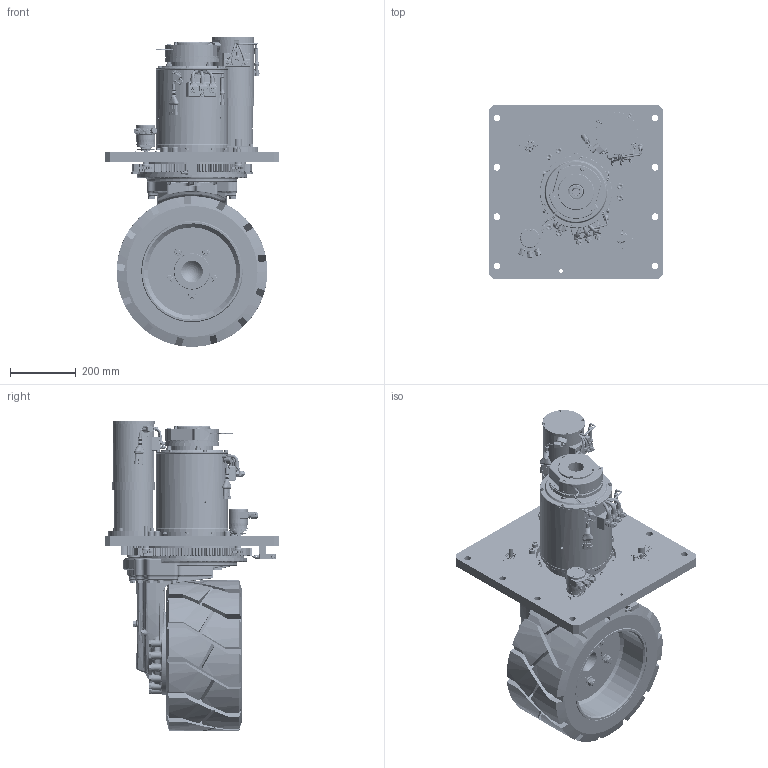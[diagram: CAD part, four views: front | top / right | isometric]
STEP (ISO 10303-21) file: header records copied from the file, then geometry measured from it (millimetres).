
FILE_DESCRIPTION(/* description */ (''),/* implementation_level */ '2;1');
FILE_NAME(/* name */ 'C:\Users\marco bosi\Desktop\WR450FMS-AC.stp',/* time_stamp */ '2023-09-28T11:17:21+02:00',/* author */ ('marco bosi'),/* organization */ (''),/* preprocessor_version */ 'ST-DEVELOPER v18.1',/* originating_system */ 'Autodesk Inventor 2022',/* authorisation */ '');
FILE_SCHEMA (('AUTOMOTIVE_DESIGN { 1 0 10303 214 3 1 1 }'));
Products named in the file (1): WR450FMS-AC_Semplifica_1
Bounding box: 530 x 530 x 939.3 mm (x, y, z)
Volume: 43336170.6 mm3; surface area: 4026950 mm2
Topology: 60 solids, 69 shells, 19426 faces, 50864 edges, 32692 vertices
Faces by surface type: plane 10684, cylinder 4237, bspline 1777, cone 1610, torus 897, sphere 221
Full cylindrical faces by diameter (mm): 0.6 x8, 0.65 x39, 0.98 x6, 1 x3, 1.48 x4, 1.7 x12, 1.88 x2, 2 x3, 2.05 x1, 2.236 x2, 2.3 x3, 2.459 x20, 2.5 x23, 2.7 x1, 3 x7, 3.2 x5, 3.242 x4, 3.3 x1, 3.9 x2, 4 x10, 4.134 x4, 4.32 x2, 4.5 x2, 4.7 x1, 4.75 x1, 4.82 x2, 4.917 x15, 5 x20, 5.5 x15, 6 x43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
Entity records: 785325 total; most frequent: CARTESIAN_POINT 293757, ORIENTED_EDGE 101308, DIRECTION 94874, EDGE_CURVE 50654, AXIS2_PLACEMENT_3D 33620, VERTEX_POINT 32884, LINE 27634, VECTOR 27634
